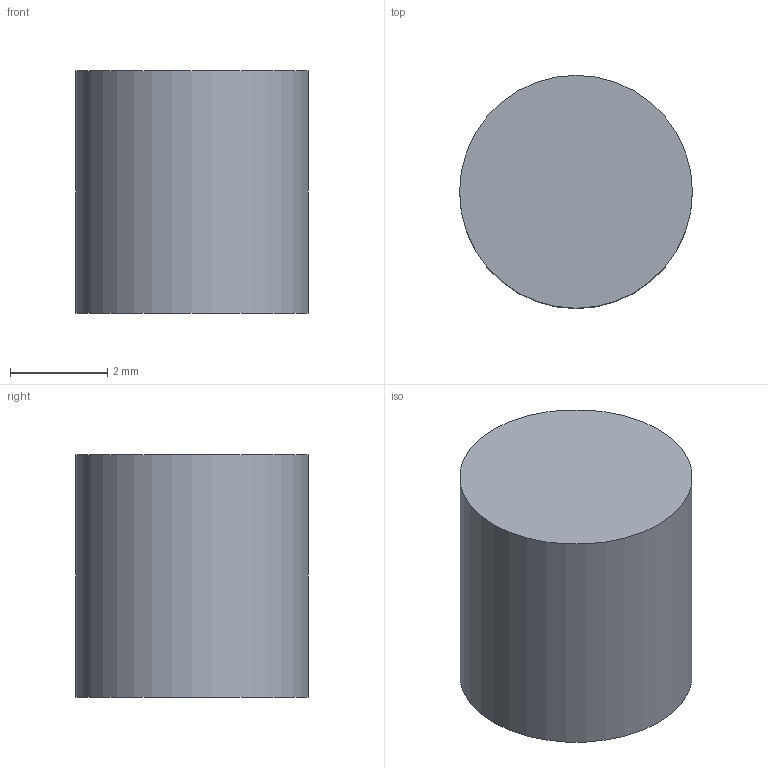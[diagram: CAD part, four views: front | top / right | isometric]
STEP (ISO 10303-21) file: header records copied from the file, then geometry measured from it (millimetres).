
FILE_DESCRIPTION(('Open CASCADE Model'),'2;1');
FILE_NAME('Open CASCADE Shape Model','2026-09-29T12:47:59',('Author'),( 'Open CASCADE'),'Open CASCADE STEP processor 7.9','Open CASCADE 7.9' ,'Unknown');
FILE_SCHEMA(('AUTOMOTIVE_DESIGN { 1 0 10303 214 1 1 1 1 }'));
Length unit declared in the file: millimetre
Products named in the file (1): Open CASCADE STEP translator 7.9 8
Bounding box: 4.8 x 4.8 x 5 mm (x, y, z)
Volume: 90.5 mm3; surface area: 111.6 mm2
Topology: 1 solids, 1 shells, 3 faces, 3 edges, 2 vertices
Faces by surface type: plane 2, cylinder 1
Full cylindrical faces by diameter (mm): 4.8 x1
Entity records: 108 total; most frequent: DIRECTION 19, CARTESIAN_POINT 15, AXIS2_PLACEMENT_3D 6, ORIENTED_EDGE 6, PCURVE 6, DEFINITIONAL_REPRESENTATION 6, LINE 5, VECTOR 5
